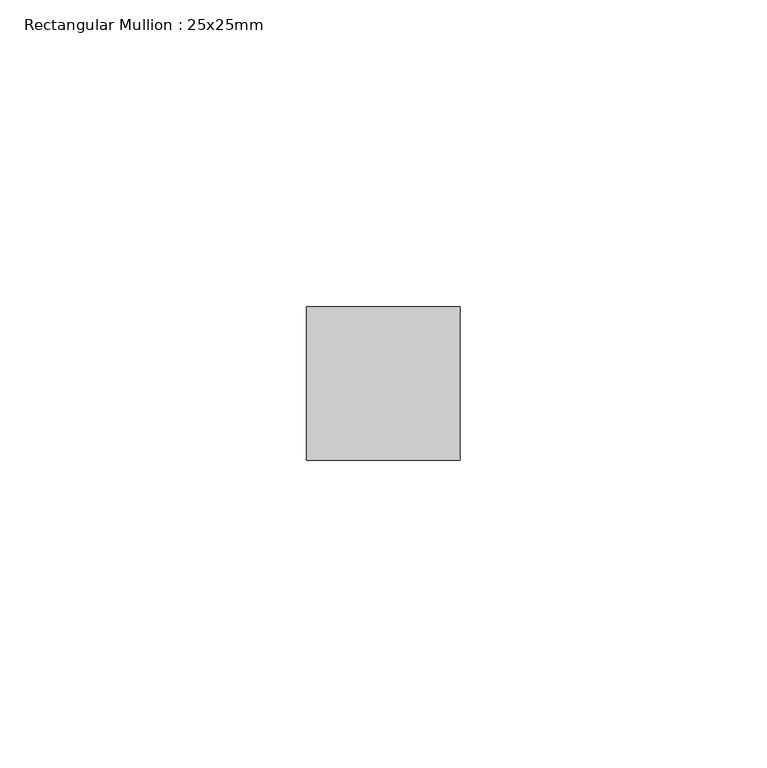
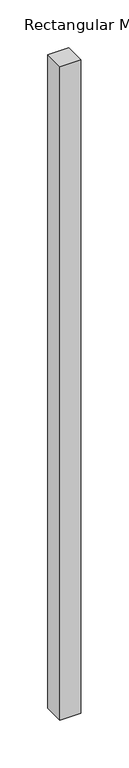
"""IFC4 building model written with IfcOpenShell, lengths in millimetres: member geometry, Rectangular Mullion : 25x25mm."""

from ifc_helpers import new_model, si_unit, frame, origin, place, context, project, spatial, polyline, outline, extrude, source, transform, mapped, element, save


def rectangular_mullion_25x25mm_c76a5620(model_context):
    return source(origin(), model_context, "Body", "SweptSolid", [
        extrude(outline(polyline([(12.5, 24.5), (12.5, -0.5), (-12.5, -0.5), (-12.5, 24.5), (12.5, 24.5)])), frame((0.0, 0.0, -831.2836064), z_axis=(0.0, 0.0, 1.0), x_axis=(1.0, 0.0, 0.0)), (0.0, 0.0, 1.0), 831.2836064),
    ])


if __name__ == "__main__":
    model = new_model("IFC4")
    model_context = context("Model", 3, world=origin())
    ifc_project = project(units=[si_unit("LENGTHUNIT", "METRE", prefix="MILLI")], contexts=[model_context])
    site = spatial("IfcSite", under=ifc_project)
    building = spatial("IfcBuilding", under=site)
    placement = place(None, origin())
    rectangular_mullion_25x25mm_shape = rectangular_mullion_25x25mm_c76a5620(model_context)
    element("IfcMember", 1, ObjectType="Rectangular Mullion : 25x25mm", at=placement, inside=building, context=model_context, shape_type="MappedRepresentation", body=[
        mapped(rectangular_mullion_25x25mm_shape, transform((0.0, 0.0, 0.0), x_axis=(1.0, 0.0, 0.0), y_axis=(0.0, 1.0, 0.0), z_axis=(0.0, 0.0, 1.0))),
    ])
    save(model, "model.ifc")
